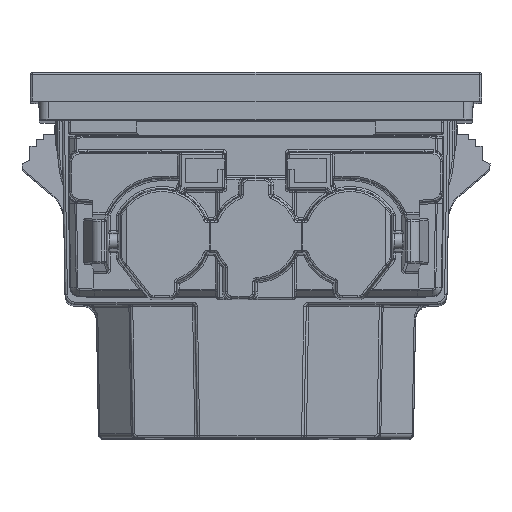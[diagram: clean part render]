
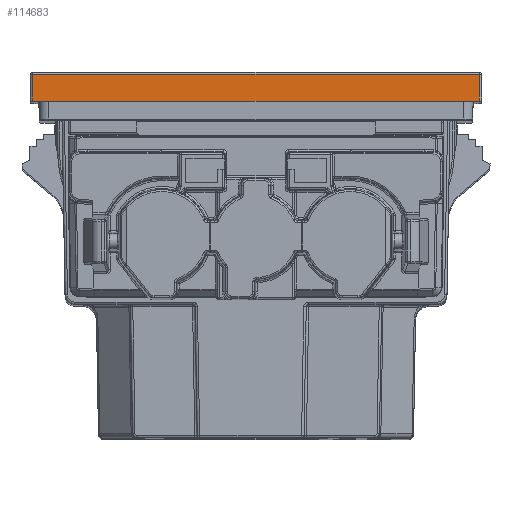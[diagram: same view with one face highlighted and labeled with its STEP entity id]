
A CAD part, top view. The second image highlights one B-rep face of the part: STEP entity #114683.
In plain terms, the highlighted planar face has unit normal (0, 0.009, 1).
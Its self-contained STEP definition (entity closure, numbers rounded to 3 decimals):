
#368 = CARTESIAN_POINT ( 'NONE',  ( 23.1, 0., 79.5 ) ) ;
#12090 = VERTEX_POINT ( 'NONE', #71164 ) ;
#19874 = VECTOR ( 'NONE', #30493, 1000. ) ;
#27403 = DIRECTION ( 'NONE',  ( 1., 0., 0. ) ) ;
#28579 = DIRECTION ( 'NONE',  ( -0.009, 1., -0.009 ) ) ;
#30493 = DIRECTION ( 'NONE',  ( -1., 0., 0. ) ) ;
#34542 = EDGE_LOOP ( 'NONE', ( #41783, #113080, #107031, #95534 ) ) ;
#36072 = EDGE_CURVE ( 'NONE', #48611, #95146, #78815, .T. ) ;
#41783 = ORIENTED_EDGE ( 'NONE', *, *, #36072, .T. ) ;
#48611 = VERTEX_POINT ( 'NONE', #105022 ) ;
#49699 = CARTESIAN_POINT ( 'NONE',  ( -23.35, 2.752, 79.476 ) ) ;
#50778 = VECTOR ( 'NONE', #27403, 1000. ) ;
#51765 = VECTOR ( 'NONE', #28579, 1000. ) ;
#68008 = LINE ( 'NONE', #78977, #101911 ) ;
#68289 = EDGE_CURVE ( 'NONE', #95146, #12090, #80662, .T. ) ;
#71164 = CARTESIAN_POINT ( 'NONE',  ( 23.076, 2.752, 79.476 ) ) ;
#71737 = CARTESIAN_POINT ( 'NONE',  ( 23.1, 0., 79.5 ) ) ;
#77580 = EDGE_CURVE ( 'NONE', #12090, #100813, #124233, .T. ) ;
#78815 = LINE ( 'NONE', #120502, #50778 ) ;
#78977 = CARTESIAN_POINT ( 'NONE',  ( -23.076, 2.752, 79.476 ) ) ;
#80662 = LINE ( 'NONE', #71737, #51765 ) ;
#80952 = AXIS2_PLACEMENT_3D ( 'NONE', #91852, #104153, #123282 ) ;
#82960 = FACE_OUTER_BOUND ( 'NONE', #34542, .T. ) ;
#87512 = EDGE_CURVE ( 'NONE', #100813, #48611, #68008, .T. ) ;
#91852 = CARTESIAN_POINT ( 'NONE',  ( -23.35, 0., 79.5 ) ) ;
#95146 = VERTEX_POINT ( 'NONE', #368 ) ;
#95534 = ORIENTED_EDGE ( 'NONE', *, *, #87512, .T. ) ;
#100813 = VERTEX_POINT ( 'NONE', #120131 ) ;
#101514 = DIRECTION ( 'NONE',  ( -0.009, -1., 0.009 ) ) ;
#101911 = VECTOR ( 'NONE', #101514, 1000. ) ;
#104153 = DIRECTION ( 'NONE',  ( 0., 0.009, 1. ) ) ;
#105022 = CARTESIAN_POINT ( 'NONE',  ( -23.1, 0., 79.5 ) ) ;
#107031 = ORIENTED_EDGE ( 'NONE', *, *, #77580, .T. ) ;
#113080 = ORIENTED_EDGE ( 'NONE', *, *, #68289, .T. ) ;
#114683 = ADVANCED_FACE ( 'NONE', ( #82960 ), #134218, .T. ) ;
#120131 = CARTESIAN_POINT ( 'NONE',  ( -23.076, 2.752, 79.476 ) ) ;
#120502 = CARTESIAN_POINT ( 'NONE',  ( 22.45, 0., 79.5 ) ) ;
#123282 = DIRECTION ( 'NONE',  ( 0., -1., 0.009 ) ) ;
#124233 = LINE ( 'NONE', #49699, #19874 ) ;
#134218 = PLANE ( 'NONE',  #80952 ) ;
